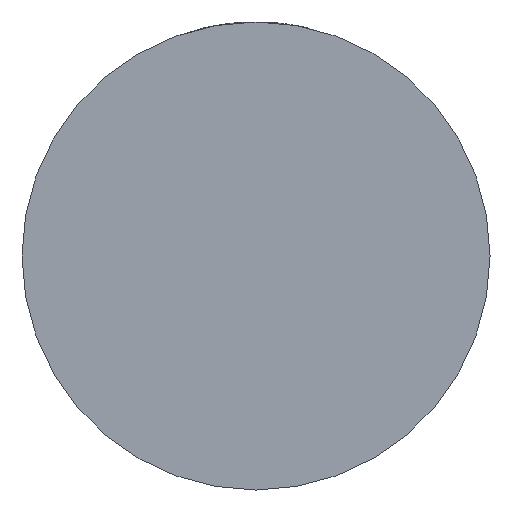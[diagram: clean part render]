
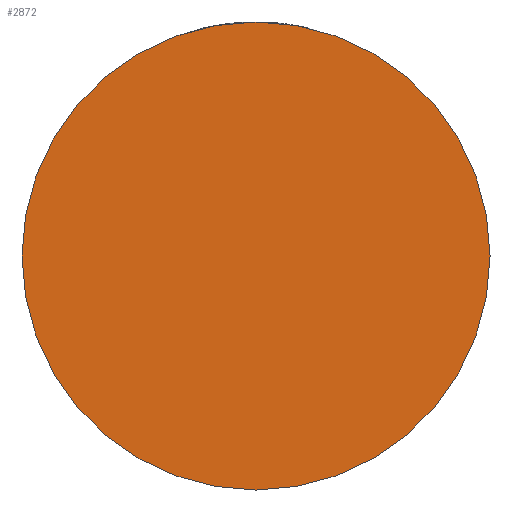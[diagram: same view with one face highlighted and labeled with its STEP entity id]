
A CAD part, front view. The second image highlights one B-rep face of the part: STEP entity #2872.
In plain terms, the highlighted planar face has unit normal (0, -1, 0).
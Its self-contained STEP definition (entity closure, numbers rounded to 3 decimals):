
#522 = CARTESIAN_POINT ( 'NONE',  ( 40., -28., 0. ) ) ;
#815 = AXIS2_PLACEMENT_3D ( 'NONE', #2274, #3637, #4256 ) ;
#842 = CARTESIAN_POINT ( 'NONE',  ( 0., -28., 0. ) ) ;
#984 = VERTEX_POINT ( 'NONE', #522 ) ;
#1146 = EDGE_CURVE ( 'NONE', #984, #1440, #4236, .T. ) ;
#1173 = CARTESIAN_POINT ( 'NONE',  ( -40., -28., 0. ) ) ;
#1300 = DIRECTION ( 'NONE',  ( 0., -1., 0. ) ) ;
#1440 = VERTEX_POINT ( 'NONE', #1173 ) ;
#1453 = EDGE_CURVE ( 'NONE', #1440, #984, #3330, .T. ) ;
#2197 = DIRECTION ( 'NONE',  ( 0., -1., 0. ) ) ;
#2274 = CARTESIAN_POINT ( 'NONE',  ( 0., -28., 0. ) ) ;
#2350 = AXIS2_PLACEMENT_3D ( 'NONE', #3973, #1300, #3664 ) ;
#2619 = PLANE ( 'NONE',  #2350 ) ;
#2872 = ADVANCED_FACE ( 'NONE', ( #3643 ), #2619, .T. ) ;
#3330 = CIRCLE ( 'NONE', #4331, 40. ) ;
#3576 = ORIENTED_EDGE ( 'NONE', *, *, #1453, .T. ) ;
#3637 = DIRECTION ( 'NONE',  ( 0., -1., 0. ) ) ;
#3643 = FACE_OUTER_BOUND ( 'NONE', #3755, .T. ) ;
#3664 = DIRECTION ( 'NONE',  ( 1., 0., 0. ) ) ;
#3755 = EDGE_LOOP ( 'NONE', ( #3576, #4068 ) ) ;
#3973 = CARTESIAN_POINT ( 'NONE',  ( 0., -28., 0. ) ) ;
#4068 = ORIENTED_EDGE ( 'NONE', *, *, #1146, .T. ) ;
#4236 = CIRCLE ( 'NONE', #815, 40. ) ;
#4256 = DIRECTION ( 'NONE',  ( 1., 0., 0. ) ) ;
#4313 = DIRECTION ( 'NONE',  ( 1., 0., 0. ) ) ;
#4331 = AXIS2_PLACEMENT_3D ( 'NONE', #842, #2197, #4313 ) ;
